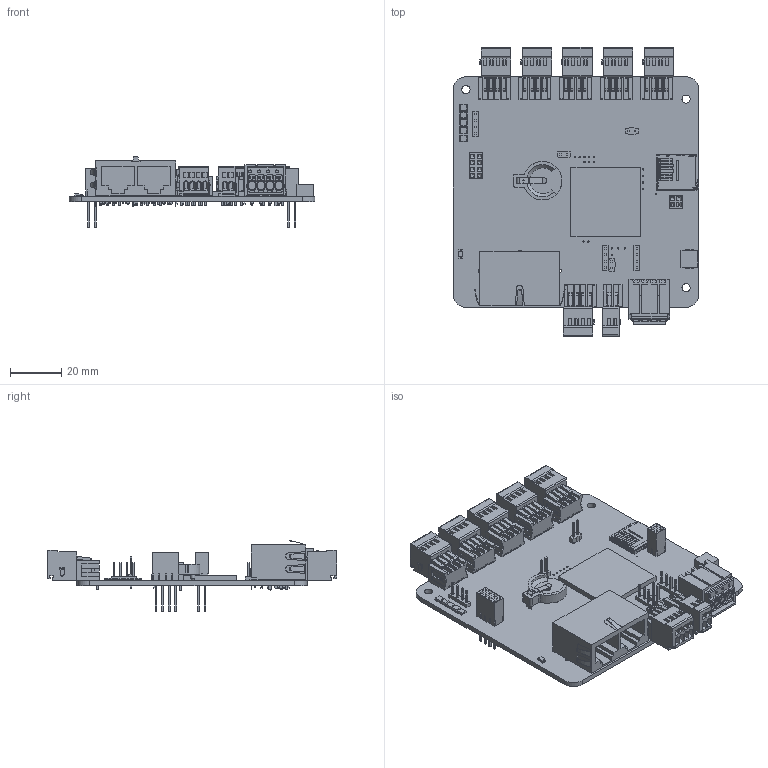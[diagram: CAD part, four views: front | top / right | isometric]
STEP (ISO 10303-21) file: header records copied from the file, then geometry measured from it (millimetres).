
FILE_DESCRIPTION(/* description */ (''),/* implementation_level */ '2;1');
FILE_NAME(/* name */ 'Simulation Model 1.step',/* time_stamp */ '2022-12-13T10:32:22+01:00',/* author */ (''),/* organization */ (''),/* preprocessor_version */ 'ST-DEVELOPER v19.2',/* originating_system */ 'Autodesk Translation Framework v11.17.0.187',/* authorisation */ '');
FILE_SCHEMA (('AUTOMOTIVE_DESIGN { 1 0 10303 214 3 1 1 }'));
Products named in the file (32): Simulation Model 1; 117817 v2; Board; Packages; 1206; J8064D628ANL; 1X02; 100612.model v1; 1X04; 100605.Model v1; 2X02; 101900.Model v1; 2X04; 106289.Model v1; BATTERY_HOLDER_CR1225; keystone-PN500 v1; DM3BT-DSF-PEJS; 110538.Model v1; INDUCTOR_74437349068; Model; LED_KPB-3025ESGC-F01; Model (1); OSD335X-BGA-400; P-2091-1424; 2091-1424 v1; P-733-362; 100041.Model[V0] v1; P-733-364; 100088.Model[V0] v1; 100040 v2; 112073 v1; 100086 v2
Assembly tree (49 placements, depth 5):
  Simulation Model 1
    117817 v2
      Board
      Packages
        1206
        J8064D628ANL
        1X02  x3
          100612.model v1
        1X04  x3
          100605.Model v1
        2X02
          101900.Model v1
        2X04
          106289.Model v1
        BATTERY_HOLDER_CR1225
          keystone-PN500 v1
        DM3BT-DSF-PEJS
          110538.Model v1
        INDUCTOR_74437349068
          Model
        LED_KPB-3025ESGC-F01  x5
          Model (1)
        OSD335X-BGA-400
        P-2091-1424
          2091-1424 v1
        P-733-362
          100041.Model[V0] v1
        P-733-364  x6
          100088.Model[V0] v1
    100040 v2
    112073 v1
    100086 v2  x6
Bounding box: 96 x 112.9 x 27.85 mm (x, y, z)
Volume: 43192.7 mm3; surface area: 48472.2 mm2
Topology: 166 solids, 185 shells, 5933 faces, 15098 edges, 9845 vertices
Faces by surface type: plane 4507, cylinder 1266, sphere 83, cone 73, bspline 4
Full cylindrical faces by diameter (mm): 0.43 x19, 0.5 x38, 0.819 x16, 0.864 x1, 0.889 x33, 0.93 x2, 0.946 x38, 1 x12, 1.016 x76, 1.03 x26, 1.1 x52, 1.13 x4, 1.2 x34, 1.505 x3, 1.524 x3, 1.575 x6, 2.362 x1, 3.2 x3, 3.251 x2
Entity records: 110955 total; most frequent: CARTESIAN_POINT 19276, DIRECTION 18386, ORIENTED_EDGE 18342, EDGE_CURVE 9171, LINE 7264, VECTOR 7264, VERTEX_POINT 5993, AXIS2_PLACEMENT_3D 5561
